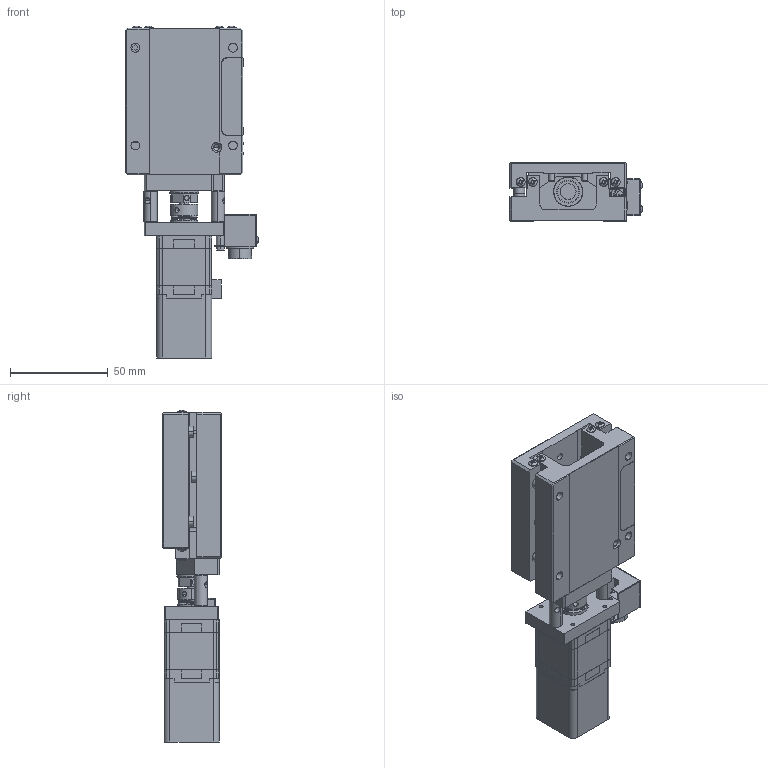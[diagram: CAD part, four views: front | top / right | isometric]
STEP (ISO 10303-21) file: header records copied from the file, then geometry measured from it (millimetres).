
FILE_DESCRIPTION (( 'STEP AP214' ), '1' );
FILE_NAME ('TXS6030B-L1-MC28L.STEP', '2025-01-03T09:14:03', ( '' ), ( '' ), 'SwSTEP 2.0', 'SolidWorks 2020', '' );
FILE_SCHEMA (( 'AUTOMOTIVE_DESIGN' ));
Length unit declared in the file: millimetre
Products named in the file (3): TXS6030B-L1-MC28L-掛极; TXS6030B-L1-MC28L; 28HSM006-E1
Assembly tree (2 placements, depth 2):
  TXS6030B-L1-MC28L
    TXS6030B-L1-MC28L-掛极
    28HSM006-E1
Bounding box: 67.98 x 30 x 169.93 mm (x, y, z)
Volume: 178955 mm3; surface area: 71571.6 mm2
Topology: 87 solids, 87 shells, 2046 faces, 5344 edges, 3421 vertices
Faces by surface type: plane 994, cylinder 676, cone 184, torus 88, bspline 68, sphere 36
Entity records: 69061 total; most frequent: CARTESIAN_POINT 17945, DIRECTION 10544, ORIENTED_EDGE 10366, EDGE_CURVE 5183, AXIS2_PLACEMENT_3D 3962, VERTEX_POINT 3421, VECTOR 2620, LINE 2620
